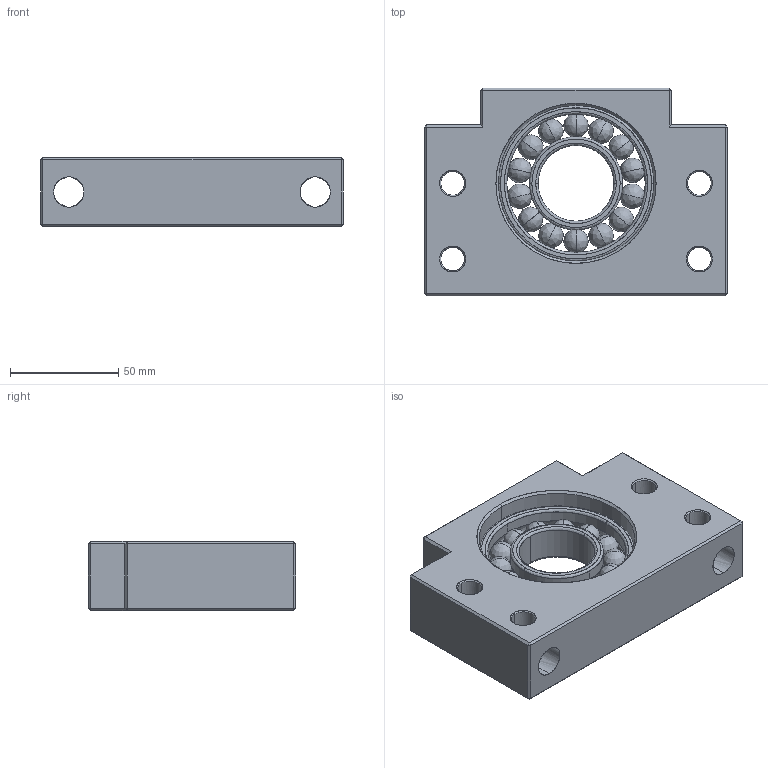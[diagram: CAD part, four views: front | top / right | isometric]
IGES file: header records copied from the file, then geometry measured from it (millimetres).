
Start section: SolidWorks IGES file using analytic representation for surfaces
Global section: file name: Z:\Accessories\_GC_!!!\SYK\Support unit\BF\BF35.IGS; native system: SolidWorks 2015; preprocessor: SolidWorks 2015; author: User; date: 170504.150754; units: millimetre
Bounding box: 140 x 96 x 32 mm (x, y, z)
Surface area: 65677.7 mm2 (no closed solid volume)
Topology: 0 solids, 0 shells, 162 faces, 2428 edges, 2380 vertices
Faces by surface type: bspline 100, revolution 62
